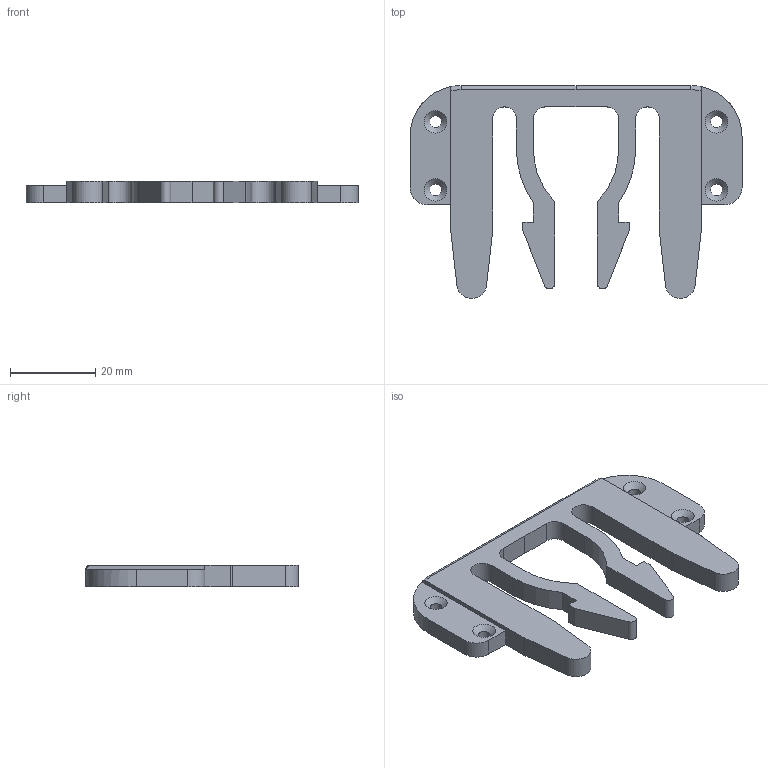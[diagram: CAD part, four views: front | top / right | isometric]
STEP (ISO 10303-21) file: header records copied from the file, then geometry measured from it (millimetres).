
FILE_DESCRIPTION(('FreeCAD Model'),'2;1');
FILE_NAME('Open CASCADE Shape Model','2023-08-22T14:14:23',('Author'),( ''),'Open CASCADE STEP processor 7.6','FreeCAD','Unknown');
FILE_SCHEMA(('AUTOMOTIVE_DESIGN { 1 0 10303 214 1 1 1 1 }'));
Length unit declared in the file: millimetre
Products named in the file (1): Защелка верхняя
Bounding box: 78 x 49.99 x 5 mm (x, y, z)
Volume: 9313.6 mm3; surface area: 6449.1 mm2
Topology: 1 solids, 1 shells, 70 faces, 193 edges, 125 vertices
Faces by surface type: plane 38, cylinder 26, cone 4, torus 2
Full cylindrical faces by diameter (mm): 2.8 x4
Entity records: 4889 total; most frequent: CARTESIAN_POINT 925, DIRECTION 766, LINE 464, VECTOR 464, ORIENTED_EDGE 386, PCURVE 386, DEFINITIONAL_REPRESENTATION 386, EDGE_CURVE 193
